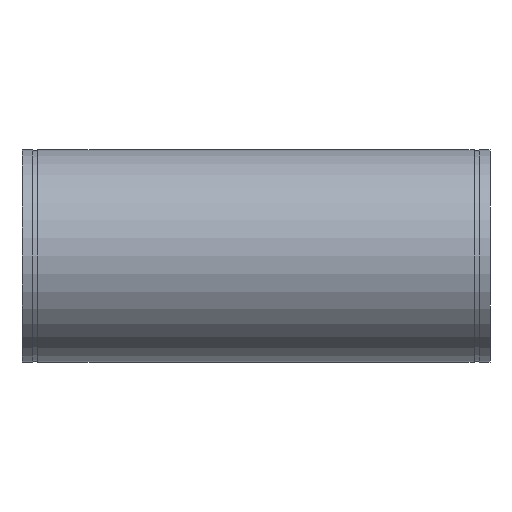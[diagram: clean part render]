
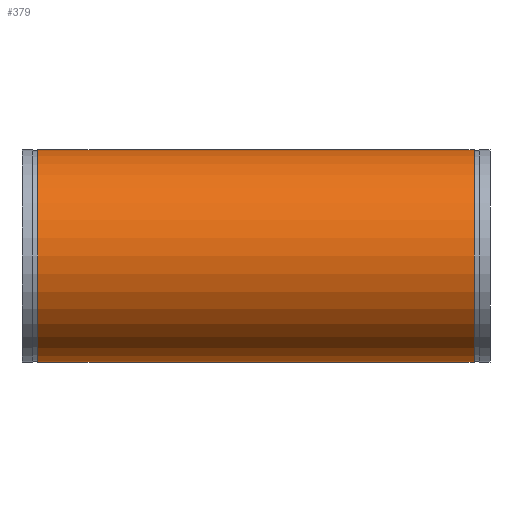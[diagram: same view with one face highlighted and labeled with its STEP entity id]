
A CAD part, left-side view. The second image highlights one B-rep face of the part: STEP entity #379.
In plain terms, the highlighted cylindrical face has radius 254 mm (diameter 508 mm), a full revolution.
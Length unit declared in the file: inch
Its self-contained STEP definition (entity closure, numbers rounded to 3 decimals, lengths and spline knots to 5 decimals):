
#45=ELLIPSE('',#439,26.13126,10.);
#46=ELLIPSE('',#440,26.13126,10.);
#47=ELLIPSE('',#441,10.82392,10.);
#57=LINE('',#676,#68);
#68=VECTOR('',#544,10.);
#79=CYLINDRICAL_SURFACE('',#438,10.);
#90=FACE_BOUND('',#131,.T.);
#105=FACE_OUTER_BOUND('',#130,.T.);
#130=EDGE_LOOP('',(#292,#293,#294,#295));
#131=EDGE_LOOP('',(#296,#297,#298));
#154=CIRCLE('',#426,10.);
#155=CIRCLE('',#428,10.);
#181=VERTEX_POINT('',#653);
#182=VERTEX_POINT('',#656);
#189=VERTEX_POINT('',#677);
#190=VERTEX_POINT('',#678);
#191=VERTEX_POINT('',#680);
#218=EDGE_CURVE('',#181,#181,#154,.T.);
#219=EDGE_CURVE('',#182,#182,#155,.T.);
#228=EDGE_CURVE('',#181,#182,#57,.T.);
#229=EDGE_CURVE('',#189,#190,#45,.T.);
#230=EDGE_CURVE('',#190,#191,#46,.T.);
#231=EDGE_CURVE('',#191,#189,#47,.T.);
#292=ORIENTED_EDGE('',*,*,#218,.T.);
#293=ORIENTED_EDGE('',*,*,#228,.T.);
#294=ORIENTED_EDGE('',*,*,#219,.T.);
#295=ORIENTED_EDGE('',*,*,#228,.F.);
#296=ORIENTED_EDGE('',*,*,#229,.T.);
#297=ORIENTED_EDGE('',*,*,#230,.T.);
#298=ORIENTED_EDGE('',*,*,#231,.T.);
#379=ADVANCED_FACE('',(#105,#90),#79,.T.);
#426=AXIS2_PLACEMENT_3D('',#654,#516,#517);
#428=AXIS2_PLACEMENT_3D('',#657,#520,#521);
#438=AXIS2_PLACEMENT_3D('',#675,#542,#543);
#439=AXIS2_PLACEMENT_3D('',#679,#545,#546);
#440=AXIS2_PLACEMENT_3D('',#681,#547,#548);
#441=AXIS2_PLACEMENT_3D('',#682,#549,#550);
#516=DIRECTION('center_axis',(0.,1.,0.));
#517=DIRECTION('ref_axis',(1.,0.,0.));
#520=DIRECTION('center_axis',(0.,-1.,0.));
#521=DIRECTION('ref_axis',(1.,0.,0.));
#542=DIRECTION('center_axis',(0.,-1.,0.));
#543=DIRECTION('ref_axis',(1.,0.,0.));
#544=DIRECTION('',(0.,1.,0.));
#545=DIRECTION('center_axis',(-0.924,0.383,0.));
#546=DIRECTION('ref_axis',(-0.383,-0.924,0.));
#547=DIRECTION('center_axis',(-0.924,0.383,0.));
#548=DIRECTION('ref_axis',(-0.383,-0.924,0.));
#549=DIRECTION('center_axis',(-0.383,-0.924,0.));
#550=DIRECTION('ref_axis',(0.924,-0.383,0.));
#653=CARTESIAN_POINT('',(-10.,-7.5,0.));
#654=CARTESIAN_POINT('Origin',(0.,-7.5,0.));
#656=CARTESIAN_POINT('',(-10.,33.5,0.));
#657=CARTESIAN_POINT('Origin',(0.,33.5,0.));
#675=CARTESIAN_POINT('Origin',(0.,35.,0.));
#676=CARTESIAN_POINT('',(-10.,35.,0.));
#677=CARTESIAN_POINT('',(0.,0.,10.));
#678=CARTESIAN_POINT('',(10.,24.14214,0.));
#679=CARTESIAN_POINT('Origin',(0.,0.,
0.));
#680=CARTESIAN_POINT('',(0.,0.,-10.));
#681=CARTESIAN_POINT('Origin',(0.,0.,
0.));
#682=CARTESIAN_POINT('Origin',(0.,0.,
0.));
